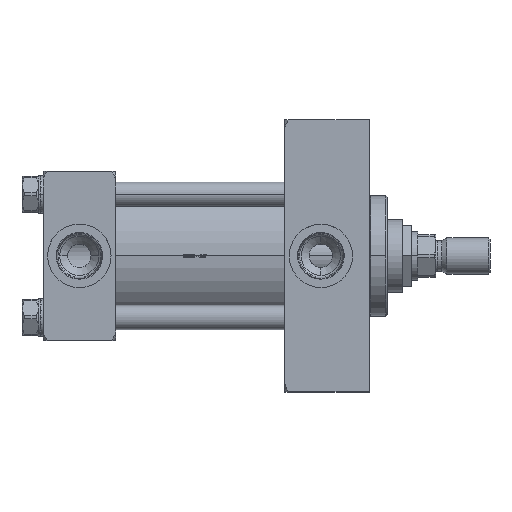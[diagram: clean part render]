
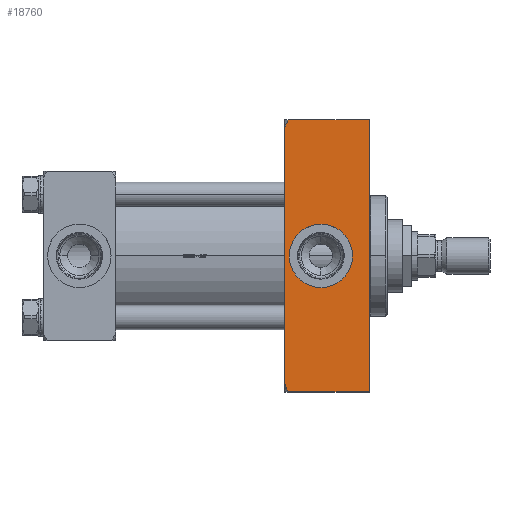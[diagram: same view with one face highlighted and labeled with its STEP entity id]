
A CAD part, top view. The second image highlights one B-rep face of the part: STEP entity #18760.
In plain terms, the highlighted planar face has unit normal (0, 0, 1).
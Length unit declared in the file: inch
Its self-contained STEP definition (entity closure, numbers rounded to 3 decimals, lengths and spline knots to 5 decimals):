
#1367 = EDGE_CURVE ( 'NONE', #7949, #74008, #19375, .T. ) ;
#1618 = CARTESIAN_POINT ( 'NONE',  ( -3.125, 2.63099, 1.75 ) ) ;
#2904 = B_SPLINE_CURVE_WITH_KNOTS ( 'NONE', 3,
 ( #9841, #14903, #40356, #35371, #65763, #47854, #42000, #9009, #60699, #34149, #59497, #53289 ),
 .UNSPECIFIED., .F., .F.,
 ( 4, 2, 2, 2, 2, 4 ),
 ( 0.00627, 0.00766, 0.00905, 0.00975, 0.01044, 0.01184 ),
 .UNSPECIFIED. ) ;
#3322 = EDGE_CURVE ( 'NONE', #38423, #19677, #20474, .T. ) ;
#3759 = CARTESIAN_POINT ( 'NONE',  ( -3.125, 2.6125, 1.75 ) ) ;
#5640 = ORIENTED_EDGE ( 'NONE', *, *, #3322, .T. ) ;
#6247 = CARTESIAN_POINT ( 'NONE',  ( -3.10635, 2.7021, 1.75 ) ) ;
#6933 = EDGE_CURVE ( 'NONE', #19677, #38423, #75085, .T. ) ;
#7949 = VERTEX_POINT ( 'NONE', #22075 ) ;
#8917 = ORIENTED_EDGE ( 'NONE', *, *, #23256, .F. ) ;
#9009 = CARTESIAN_POINT ( 'NONE',  ( -3.11257, -2.68453, 1.75 ) ) ;
#9841 = CARTESIAN_POINT ( 'NONE',  ( -3.04216, -2.8125, 1.75 ) ) ;
#11305 = VERTEX_POINT ( 'NONE', #59574 ) ;
#12482 = AXIS2_PLACEMENT_3D ( 'NONE', #13994, #53207, #46521 ) ;
#13994 = CARTESIAN_POINT ( 'NONE',  ( -2.375, 0., 1.75 ) ) ;
#14903 = CARTESIAN_POINT ( 'NONE',  ( -3.05272, -2.79756, 1.75 ) ) ;
#15570 = ORIENTED_EDGE ( 'NONE', *, *, #1367, .T. ) ;
#15723 = DIRECTION ( 'NONE',  ( 0., 1., 0. ) ) ;
#17289 = CARTESIAN_POINT ( 'NONE',  ( -3.04216, -2.8125, 1.75 ) ) ;
#17481 = VECTOR ( 'NONE', #38896, 39.37008 ) ;
#18760 = ADVANCED_FACE ( 'NONE', ( #76371, #71334 ), #45092, .F. ) ;
#19375 = LINE ( 'NONE', #63091, #39476 ) ;
#19677 = VERTEX_POINT ( 'NONE', #60039 ) ;
#20089 = DIRECTION ( 'NONE',  ( 1., 0., 0. ) ) ;
#20474 = CIRCLE ( 'NONE', #49729, 0.65625 ) ;
#20953 = CARTESIAN_POINT ( 'NONE',  ( -3.04216, 2.8125, 1.75 ) ) ;
#22075 = CARTESIAN_POINT ( 'NONE',  ( -1.375, -2.8125, 1.75 ) ) ;
#23256 = EDGE_CURVE ( 'NONE', #11305, #74008, #26794, .T. ) ;
#23504 = EDGE_CURVE ( 'NONE', #43735, #56692, #2904, .T. ) ;
#24151 = CARTESIAN_POINT ( 'NONE',  ( -3.125, -2.6125, 1.75 ) ) ;
#25468 = B_SPLINE_CURVE_WITH_KNOTS ( 'NONE', 3,
 ( #32647, #1618, #26009, #38884, #6247, #64269, #27248, #52583, #78030, #20953 ),
 .UNSPECIFIED., .F., .F.,
 ( 4, 2, 2, 2, 4 ),
 ( 0.00308, 0.00446, 0.00584, 0.00722, 0.0086 ),
 .UNSPECIFIED. ) ;
#26009 = CARTESIAN_POINT ( 'NONE',  ( -3.12232, 2.64953, 1.75 ) ) ;
#26794 = LINE ( 'NONE', #40448, #35583 ) ;
#27248 = CARTESIAN_POINT ( 'NONE',  ( -3.08173, 2.75154, 1.75 ) ) ;
#29014 = CARTESIAN_POINT ( 'NONE',  ( -2.375, -0.65625, 1.75 ) ) ;
#31846 = CARTESIAN_POINT ( 'NONE',  ( -3.125, -2.8125, 1.75 ) ) ;
#32283 = CARTESIAN_POINT ( 'NONE',  ( -3.125, -2.8125, 1.75 ) ) ;
#32647 = CARTESIAN_POINT ( 'NONE',  ( -3.125, 2.6125, 1.75 ) ) ;
#33553 = VERTEX_POINT ( 'NONE', #3759 ) ;
#34034 = EDGE_LOOP ( 'NONE', ( #39646, #5640 ) ) ;
#34149 = CARTESIAN_POINT ( 'NONE',  ( -3.12243, -2.64896, 1.75 ) ) ;
#35371 = CARTESIAN_POINT ( 'NONE',  ( -3.08208, -2.75094, 1.75 ) ) ;
#35583 = VECTOR ( 'NONE', #20089, 39.37008 ) ;
#36653 = CARTESIAN_POINT ( 'NONE',  ( -2.375, 0., 1.75 ) ) ;
#38423 = VERTEX_POINT ( 'NONE', #29014 ) ;
#38884 = CARTESIAN_POINT ( 'NONE',  ( -3.11296, 2.68498, 1.75 ) ) ;
#38896 = DIRECTION ( 'NONE',  ( 1., 0., 0. ) ) ;
#39476 = VECTOR ( 'NONE', #44374, 39.37008 ) ;
#39646 = ORIENTED_EDGE ( 'NONE', *, *, #6933, .T. ) ;
#40356 = CARTESIAN_POINT ( 'NONE',  ( -3.06292, -2.78233, 1.75 ) ) ;
#40448 = CARTESIAN_POINT ( 'NONE',  ( -3.125, 2.8125, 1.75 ) ) ;
#42000 = CARTESIAN_POINT ( 'NONE',  ( -3.10616, -2.7017, 1.75 ) ) ;
#43735 = VERTEX_POINT ( 'NONE', #17289 ) ;
#44374 = DIRECTION ( 'NONE',  ( 0., 1., 0. ) ) ;
#44718 = LINE ( 'NONE', #32283, #17481 ) ;
#45092 = PLANE ( 'NONE',  #50448 ) ;
#46521 = DIRECTION ( 'NONE',  ( 0., 1., 0. ) ) ;
#47854 = CARTESIAN_POINT ( 'NONE',  ( -3.10257, -2.7101, 1.75 ) ) ;
#48215 = EDGE_CURVE ( 'NONE', #43735, #7949, #44718, .T. ) ;
#49729 = AXIS2_PLACEMENT_3D ( 'NONE', #36653, #61981, #77433 ) ;
#50251 = EDGE_LOOP ( 'NONE', ( #57527, #79067, #15570, #8917, #53084, #61518 ) ) ;
#50448 = AXIS2_PLACEMENT_3D ( 'NONE', #31846, #57186, #76769 ) ;
#52583 = CARTESIAN_POINT ( 'NONE',  ( -3.06273, 2.78261, 1.75 ) ) ;
#53084 = ORIENTED_EDGE ( 'NONE', *, *, #67314, .F. ) ;
#53207 = DIRECTION ( 'NONE',  ( 0., 0., -1. ) ) ;
#53289 = CARTESIAN_POINT ( 'NONE',  ( -3.125, -2.6125, 1.75 ) ) ;
#55127 = EDGE_CURVE ( 'NONE', #56692, #33553, #79069, .T. ) ;
#55868 = CARTESIAN_POINT ( 'NONE',  ( -1.375, 2.8125, 1.75 ) ) ;
#56692 = VERTEX_POINT ( 'NONE', #24151 ) ;
#57186 = DIRECTION ( 'NONE',  ( 0., 0., -1. ) ) ;
#57527 = ORIENTED_EDGE ( 'NONE', *, *, #23504, .F. ) ;
#59497 = CARTESIAN_POINT ( 'NONE',  ( -3.125, -2.63088, 1.75 ) ) ;
#59574 = CARTESIAN_POINT ( 'NONE',  ( -3.04216, 2.8125, 1.75 ) ) ;
#60039 = CARTESIAN_POINT ( 'NONE',  ( -2.375, 0.65625, 1.75 ) ) ;
#60699 = CARTESIAN_POINT ( 'NONE',  ( -3.11542, -2.67573, 1.75 ) ) ;
#61518 = ORIENTED_EDGE ( 'NONE', *, *, #55127, .F. ) ;
#61981 = DIRECTION ( 'NONE',  ( 0., 0., -1. ) ) ;
#63091 = CARTESIAN_POINT ( 'NONE',  ( -1.375, -2.8125, 1.75 ) ) ;
#63153 = VECTOR ( 'NONE', #15723, 39.37008 ) ;
#64269 = CARTESIAN_POINT ( 'NONE',  ( -3.09065, 2.73554, 1.75 ) ) ;
#65727 = CARTESIAN_POINT ( 'NONE',  ( -3.125, -2.8125, 1.75 ) ) ;
#65763 = CARTESIAN_POINT ( 'NONE',  ( -3.09096, -2.73492, 1.75 ) ) ;
#67314 = EDGE_CURVE ( 'NONE', #33553, #11305, #25468, .T. ) ;
#71334 = FACE_BOUND ( 'NONE', #34034, .T. ) ;
#74008 = VERTEX_POINT ( 'NONE', #55868 ) ;
#75085 = CIRCLE ( 'NONE', #12482, 0.65625 ) ;
#76371 = FACE_OUTER_BOUND ( 'NONE', #50251, .T. ) ;
#76769 = DIRECTION ( 'NONE',  ( 0., 1., 0. ) ) ;
#77433 = DIRECTION ( 'NONE',  ( 0., 1., 0. ) ) ;
#78030 = CARTESIAN_POINT ( 'NONE',  ( -3.05263, 2.79769, 1.75 ) ) ;
#79067 = ORIENTED_EDGE ( 'NONE', *, *, #48215, .T. ) ;
#79069 = LINE ( 'NONE', #65727, #63153 ) ;
